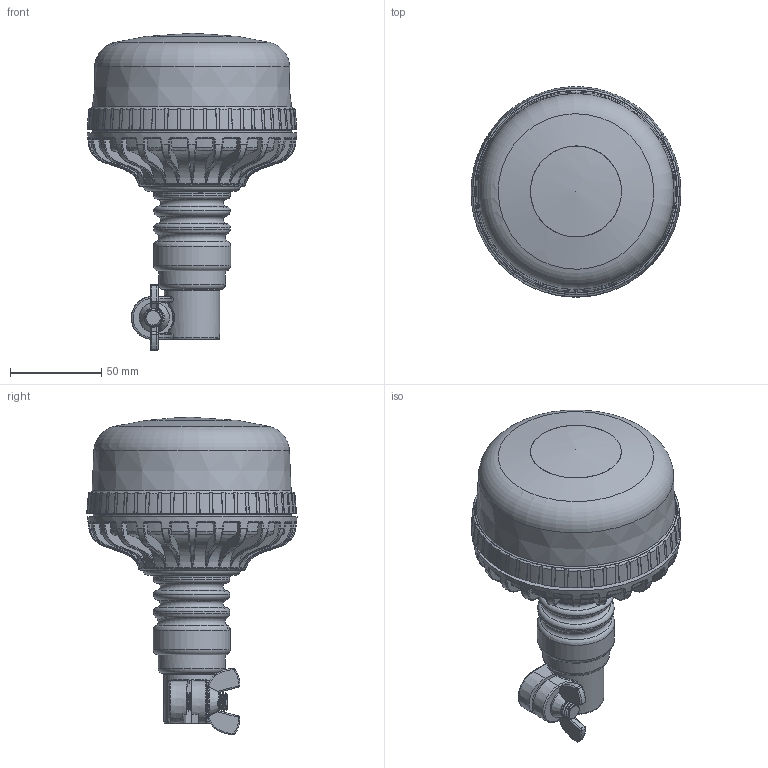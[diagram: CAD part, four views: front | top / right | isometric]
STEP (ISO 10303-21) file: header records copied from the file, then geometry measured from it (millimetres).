
FILE_DESCRIPTION(/* description */ (''),/* implementation_level */ '2;1');
FILE_NAME(/* name */ 'C:/Users/Manuel_Lenovo/Dropbox/eCommerce/Produktdetails/3D_Daten/SUMBEX/SM812AC/XR20_ECO_DIN.step',/* time_stamp */ '2020-09-16T12:30:10+02:00',/* author */ (''),/* organization */ (''),/* preprocessor_version */ 'ST-DEVELOPER v18.1',/* originating_system */ 'Autodesk Translation Framework v9.3.0.1241',/* authorisation */ '');
FILE_SCHEMA (('AUTOMOTIVE_DESIGN { 1 0 10303 214 3 1 1 }'));
Length unit declared in the file: millimetre
Products named in the file (3): (Nicht gespeichert); 91310A626; 94300A350
Assembly tree (2 placements, depth 2):
  (Nicht gespeichert)
    91310A626
    94300A350
Bounding box: 114.79 x 115.17 x 173.59 mm (x, y, z)
Volume: 190822.1 mm3; surface area: 141160.1 mm2
Topology: 5 solids, 6 shells, 2764 faces, 7005 edges, 4199 vertices
Faces by surface type: bspline 1608, plane 622, cylinder 217, cone 207, torus 63, sphere 47
Full cylindrical faces by diameter (mm): 2.103 x4, 2.2 x4, 4.166 x6, 5 x3, 6.096 x3, 7 x1, 8.051 x18, 10 x21, 14 x1, 21.2 x1, 24.2 x1, 28.1 x1, 28.55 x1, 29.056 x1, 30.256 x1, 34.8 x1, 35.357 x1, 36.576 x1, 41.758 x3, 42.266 x1, 46.736 x1, 49.799 x1, 53.2 x1, 110.831 x1
Entity records: 215421 total; most frequent: CARTESIAN_POINT 160617, ORIENTED_EDGE 13716, DIRECTION 8225, EDGE_CURVE 6858, VERTEX_POINT 4199, AXIS2_PLACEMENT_3D 3261, B_SPLINE_CURVE_WITH_KNOTS 2999, EDGE_LOOP 2911
